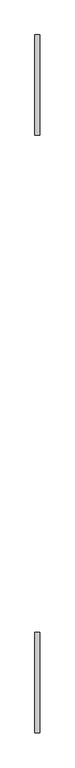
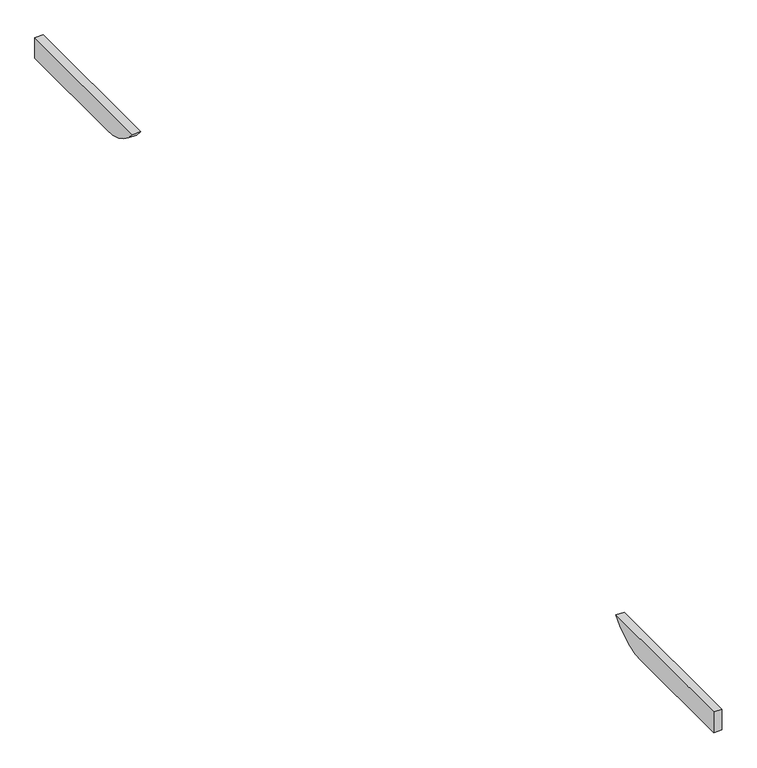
"""IFC4 building model written with IfcOpenShell, lengths in millimetres: proxy geometry, Modelos genéricos 46 : Modelos genéricos 2."""

from ifc_helpers import new_model, si_unit, point, frame, frame_2d, origin, place, context, project, spatial, polyline, circle_curve, trimmed, segment, composite_curve, outline, extrude, source, transform, mapped, element, save


def generic_models_01199cd2(model_context):
    return source(origin(), model_context, "Body", "SweptSolid", [
        extrude(outline(composite_curve([segment(polyline([(-2331.3761835, 2840.0), (-2331.3761835, 3000.0), (-1101.3761835, 3000.0)]), True, "CONTINUOUS"), segment(trimmed(circle_curve(frame_2d((-1421.3761835, 3240.0)), 400.0), [point((-1101.3761835, 3000.0))], [point((-1421.3761835, 2840.0))], False, "CARTESIAN"), True, "CONTINUOUS"), segment(polyline([(-1421.3761835, 2840.0), (-2331.3761835, 2840.0)]), True, "CONTINUOUS")], self_intersect=False)), frame((51623.4472467, 0.0, 0.0), z_axis=(1.0, 0.0, 0.0), x_axis=(0.0, 1.0, 0.0)), (0.0, 0.0, 1.0), 60.0),
        extrude(outline(composite_curve([segment(polyline([(6228.6238165, 2840.0), (5318.6238165, 2840.0)]), True, "CONTINUOUS"), segment(trimmed(circle_curve(frame_2d((5318.6238165, 3240.0)), 400.0), [point((5318.6238165, 2840.0))], [point((4998.6238165, 3000.0))], False, "CARTESIAN"), True, "CONTINUOUS"), segment(polyline([(4998.6238165, 3000.0), (6228.6238165, 3000.0), (6228.6238165, 2840.0)]), True, "CONTINUOUS")], self_intersect=False)), frame((51623.4472467, 0.0, 0.0), z_axis=(1.0, 0.0, 0.0), x_axis=(0.0, 1.0, 0.0)), (0.0, 0.0, 1.0), 60.0),
    ])


if __name__ == "__main__":
    model = new_model("IFC4")
    model_context = context("Model", 3, world=origin())
    ifc_project = project(units=[si_unit("LENGTHUNIT", "METRE", prefix="MILLI")], contexts=[model_context])
    site = spatial("IfcSite", under=ifc_project)
    building = spatial("IfcBuilding", under=site)
    placement = place(None, origin())
    generic_models_shape = generic_models_01199cd2(model_context)
    element("IfcBuildingElementProxy", 1, Name="Modelos genéricos 46 : Modelos genéricos 2", ObjectType="Modelos genéricos 46 : Modelos genéricos 2", at=placement, inside=building, context=model_context, shape_type="MappedRepresentation", body=[
        mapped(generic_models_shape, transform((0.0, 0.0, 0.0), x_axis=(1.0, 0.0, 0.0), y_axis=(0.0, 1.0, 0.0), z_axis=(0.0, 0.0, 1.0))),
    ])
    save(model, "model.ifc")
